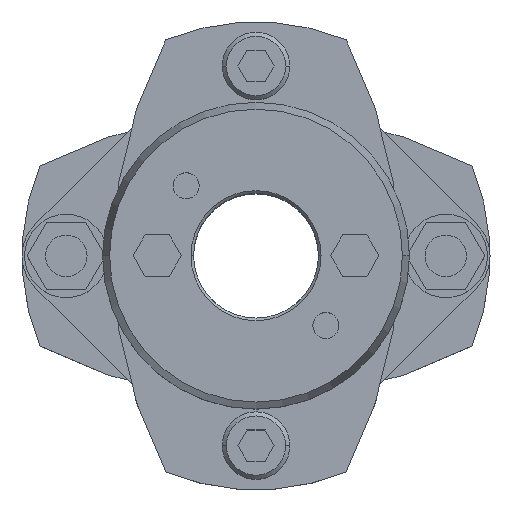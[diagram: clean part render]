
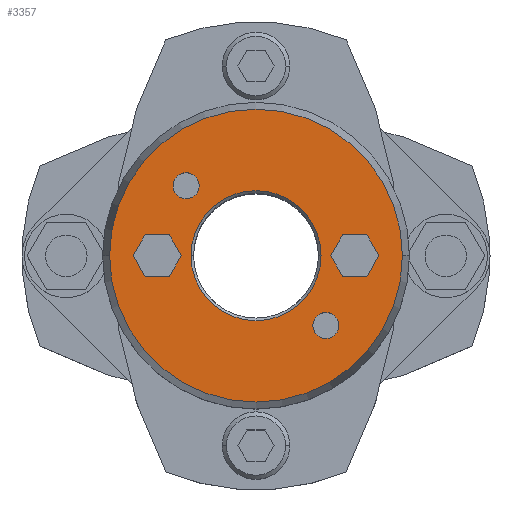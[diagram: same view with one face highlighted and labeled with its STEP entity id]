
A CAD part, top view. The second image highlights one B-rep face of the part: STEP entity #3357.
In plain terms, the highlighted planar face has unit normal (0, 0, 1).
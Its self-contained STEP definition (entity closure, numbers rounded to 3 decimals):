
#1471=CARTESIAN_POINT('',(-12.5,0.,39.25));
#1472=VERTEX_POINT('',#1471);
#1488=CARTESIAN_POINT('',(12.5,0.,39.25));
#1489=VERTEX_POINT('',#1488);
#1496=CARTESIAN_POINT('',(0.,0.,39.25));
#1497=DIRECTION('',(0.0,0.0,1.0));
#1498=DIRECTION('',(-1.0,0.0,0.0));
#1499=AXIS2_PLACEMENT_3D('',#1496,#1497,#1498);
#1500=CIRCLE('',#1499,12.5);
#1501=EDGE_CURVE('',#1489,#1472,#1500,.T.);
#1659=CARTESIAN_POINT('',(28.16,0.,39.25));
#1660=VERTEX_POINT('',#1659);
#1667=CARTESIAN_POINT('',(-28.16,0.,39.25));
#1668=VERTEX_POINT('',#1667);
#1669=CARTESIAN_POINT('',(0.,0.,39.25));
#1670=DIRECTION('',(0.0,0.0,-1.0));
#1671=DIRECTION('',(1.0,0.0,0.0));
#1672=AXIS2_PLACEMENT_3D('',#1669,#1670,#1671);
#1673=CIRCLE('',#1672,28.16);
#1674=EDGE_CURVE('',#1660,#1668,#1673,.T.);
#1917=CARTESIAN_POINT('',(10.935,-13.435,39.25));
#1918=VERTEX_POINT('',#1917);
#1934=CARTESIAN_POINT('',(15.935,-13.435,39.25));
#1935=VERTEX_POINT('',#1934);
#1942=CARTESIAN_POINT('',(13.435,-13.435,39.25));
#1943=DIRECTION('',(0.0,0.0,-1.0));
#1944=DIRECTION('',(-1.0,0.0,0.0));
#1945=AXIS2_PLACEMENT_3D('',#1942,#1943,#1944);
#1946=CIRCLE('',#1945,2.5);
#1947=EDGE_CURVE('',#1918,#1935,#1946,.T.);
#1959=CARTESIAN_POINT('',(-15.935,13.435,39.25));
#1960=VERTEX_POINT('',#1959);
#1976=CARTESIAN_POINT('',(-10.935,13.435,39.25));
#1977=VERTEX_POINT('',#1976);
#1984=CARTESIAN_POINT('',(-13.435,13.435,39.25));
#1985=DIRECTION('',(0.0,0.0,-1.0));
#1986=DIRECTION('',(-1.0,0.0,0.0));
#1987=AXIS2_PLACEMENT_3D('',#1984,#1985,#1986);
#1988=CIRCLE('',#1987,2.5);
#1989=EDGE_CURVE('',#1960,#1977,#1988,.T.);
#2072=CARTESIAN_POINT('',(-13.435,13.435,39.25));
#2073=DIRECTION('',(0.0,0.0,-1.0));
#2074=DIRECTION('',(-1.0,0.0,0.0));
#2075=AXIS2_PLACEMENT_3D('',#2072,#2073,#2074);
#2076=CIRCLE('',#2075,2.5);
#2077=EDGE_CURVE('',#1977,#1960,#2076,.T.);
#2106=CARTESIAN_POINT('',(13.435,-13.435,39.25));
#2107=DIRECTION('',(0.0,0.0,-1.0));
#2108=DIRECTION('',(-1.0,0.0,0.0));
#2109=AXIS2_PLACEMENT_3D('',#2106,#2107,#2108);
#2110=CIRCLE('',#2109,2.5);
#2111=EDGE_CURVE('',#1935,#1918,#2110,.T.);
#2149=CARTESIAN_POINT('',(-23.619,0.,39.25));
#2150=VERTEX_POINT('',#2149);
#2157=CARTESIAN_POINT('',(-21.309,-4.,39.25));
#2158=VERTEX_POINT('',#2157);
#2159=CARTESIAN_POINT('',(-21.309,-4.,39.25));
#2160=DIRECTION('',(-0.5,0.866,0.0));
#2161=VECTOR('',#2160,4.619);
#2162=LINE('',#2159,#2161);
#2163=EDGE_CURVE('',#2158,#2150,#2162,.T.);
#2187=CARTESIAN_POINT('',(-21.309,4.,39.25));
#2188=VERTEX_POINT('',#2187);
#2195=CARTESIAN_POINT('',(-23.619,0.,39.25));
#2196=DIRECTION('',(0.5,0.866,0.0));
#2197=VECTOR('',#2196,4.619);
#2198=LINE('',#2195,#2197);
#2199=EDGE_CURVE('',#2150,#2188,#2198,.T.);
#2218=CARTESIAN_POINT('',(-16.691,4.,39.25));
#2219=VERTEX_POINT('',#2218);
#2226=CARTESIAN_POINT('',(-21.309,4.,39.25));
#2227=DIRECTION('',(1.0,0.0,0.0));
#2228=VECTOR('',#2227,4.619);
#2229=LINE('',#2226,#2228);
#2230=EDGE_CURVE('',#2188,#2219,#2229,.T.);
#2249=CARTESIAN_POINT('',(-14.381,0.,39.25));
#2250=VERTEX_POINT('',#2249);
#2257=CARTESIAN_POINT('',(-16.691,4.,39.25));
#2258=DIRECTION('',(0.5,-0.866,0.0));
#2259=VECTOR('',#2258,4.619);
#2260=LINE('',#2257,#2259);
#2261=EDGE_CURVE('',#2219,#2250,#2260,.T.);
#2280=CARTESIAN_POINT('',(-16.691,-4.,39.25));
#2281=VERTEX_POINT('',#2280);
#2288=CARTESIAN_POINT('',(-14.381,0.,39.25));
#2289=DIRECTION('',(-0.5,-0.866,0.0));
#2290=VECTOR('',#2289,4.619);
#2291=LINE('',#2288,#2290);
#2292=EDGE_CURVE('',#2250,#2281,#2291,.T.);
#2310=CARTESIAN_POINT('',(-16.691,-4.,39.25));
#2311=DIRECTION('',(-1.0,0.0,0.0));
#2312=VECTOR('',#2311,4.619);
#2313=LINE('',#2310,#2312);
#2314=EDGE_CURVE('',#2281,#2158,#2313,.T.);
#2349=CARTESIAN_POINT('',(14.381,0.,39.25));
#2350=VERTEX_POINT('',#2349);
#2357=CARTESIAN_POINT('',(16.691,-4.,39.25));
#2358=VERTEX_POINT('',#2357);
#2359=CARTESIAN_POINT('',(16.691,-4.,39.25));
#2360=DIRECTION('',(-0.5,0.866,0.0));
#2361=VECTOR('',#2360,4.619);
#2362=LINE('',#2359,#2361);
#2363=EDGE_CURVE('',#2358,#2350,#2362,.T.);
#2387=CARTESIAN_POINT('',(16.691,4.,39.25));
#2388=VERTEX_POINT('',#2387);
#2395=CARTESIAN_POINT('',(14.381,0.,39.25));
#2396=DIRECTION('',(0.5,0.866,0.0));
#2397=VECTOR('',#2396,4.619);
#2398=LINE('',#2395,#2397);
#2399=EDGE_CURVE('',#2350,#2388,#2398,.T.);
#2418=CARTESIAN_POINT('',(21.309,4.,39.25));
#2419=VERTEX_POINT('',#2418);
#2426=CARTESIAN_POINT('',(16.691,4.,39.25));
#2427=DIRECTION('',(1.0,0.0,0.0));
#2428=VECTOR('',#2427,4.619);
#2429=LINE('',#2426,#2428);
#2430=EDGE_CURVE('',#2388,#2419,#2429,.T.);
#2449=CARTESIAN_POINT('',(23.619,0.,39.25));
#2450=VERTEX_POINT('',#2449);
#2457=CARTESIAN_POINT('',(21.309,4.,39.25));
#2458=DIRECTION('',(0.5,-0.866,0.0));
#2459=VECTOR('',#2458,4.619);
#2460=LINE('',#2457,#2459);
#2461=EDGE_CURVE('',#2419,#2450,#2460,.T.);
#2480=CARTESIAN_POINT('',(21.309,-4.,39.25));
#2481=VERTEX_POINT('',#2480);
#2488=CARTESIAN_POINT('',(23.619,0.,39.25));
#2489=DIRECTION('',(-0.5,-0.866,0.0));
#2490=VECTOR('',#2489,4.619);
#2491=LINE('',#2488,#2490);
#2492=EDGE_CURVE('',#2450,#2481,#2491,.T.);
#2510=CARTESIAN_POINT('',(21.309,-4.,39.25));
#2511=DIRECTION('',(-1.0,0.0,0.0));
#2512=VECTOR('',#2511,4.619);
#2513=LINE('',#2510,#2512);
#2514=EDGE_CURVE('',#2481,#2358,#2513,.T.);
#3304=CARTESIAN_POINT('',(0.,0.,39.25));
#3305=DIRECTION('',(0.0,0.0,-1.0));
#3306=DIRECTION('',(1.0,0.0,0.0));
#3307=AXIS2_PLACEMENT_3D('',#3304,#3305,#3306);
#3308=CIRCLE('',#3307,28.16);
#3309=EDGE_CURVE('',#1668,#1660,#3308,.T.);
#3314=CARTESIAN_POINT('',(-2.682,0.,39.25));
#3315=DIRECTION('',(0.0,0.0,1.0));
#3316=DIRECTION('',(-1.0,0.0,0.0));
#3317=AXIS2_PLACEMENT_3D('',#3314,#3315,#3316);
#3318=PLANE('',#3317);
#3319=ORIENTED_EDGE('',*,*,#3309,.F.);
#3320=ORIENTED_EDGE('',*,*,#1674,.F.);
#3321=EDGE_LOOP('',(#3319,#3320));
#3322=FACE_OUTER_BOUND('',#3321,.T.);
#3323=ORIENTED_EDGE('',*,*,#1989,.T.);
#3324=ORIENTED_EDGE('',*,*,#2077,.T.);
#3325=EDGE_LOOP('',(#3323,#3324));
#3326=FACE_BOUND('',#3325,.T.);
#3327=ORIENTED_EDGE('',*,*,#1947,.T.);
#3328=ORIENTED_EDGE('',*,*,#2111,.T.);
#3329=EDGE_LOOP('',(#3327,#3328));
#3330=FACE_BOUND('',#3329,.T.);
#3331=ORIENTED_EDGE('',*,*,#2163,.T.);
#3332=ORIENTED_EDGE('',*,*,#2199,.T.);
#3333=ORIENTED_EDGE('',*,*,#2230,.T.);
#3334=ORIENTED_EDGE('',*,*,#2261,.T.);
#3335=ORIENTED_EDGE('',*,*,#2292,.T.);
#3336=ORIENTED_EDGE('',*,*,#2314,.T.);
#3337=EDGE_LOOP('',(#3331,#3332,#3333,#3334,#3335,#3336));
#3338=FACE_BOUND('',#3337,.T.);
#3339=ORIENTED_EDGE('',*,*,#2363,.T.);
#3340=ORIENTED_EDGE('',*,*,#2399,.T.);
#3341=ORIENTED_EDGE('',*,*,#2430,.T.);
#3342=ORIENTED_EDGE('',*,*,#2461,.T.);
#3343=ORIENTED_EDGE('',*,*,#2492,.T.);
#3344=ORIENTED_EDGE('',*,*,#2514,.T.);
#3345=EDGE_LOOP('',(#3339,#3340,#3341,#3342,#3343,#3344));
#3346=FACE_BOUND('',#3345,.T.);
#3347=ORIENTED_EDGE('',*,*,#1501,.F.);
#3348=CARTESIAN_POINT('',(0.,0.,39.25));
#3349=DIRECTION('',(0.0,0.0,1.0));
#3350=DIRECTION('',(-1.0,0.0,0.0));
#3351=AXIS2_PLACEMENT_3D('',#3348,#3349,#3350);
#3352=CIRCLE('',#3351,12.5);
#3353=EDGE_CURVE('',#1472,#1489,#3352,.T.);
#3354=ORIENTED_EDGE('',*,*,#3353,.F.);
#3355=EDGE_LOOP('',(#3347,#3354));
#3356=FACE_BOUND('',#3355,.T.);
#3357=ADVANCED_FACE('',(#3322,#3326,#3330,#3338,#3346,#3356),#3318,.T.);
